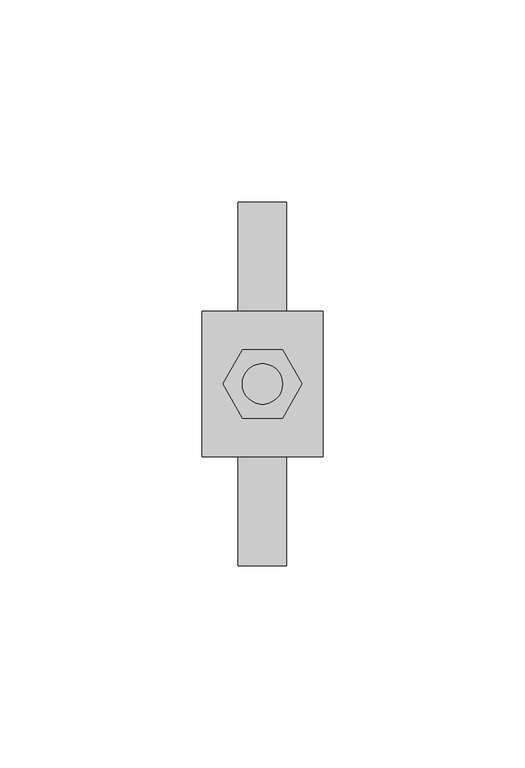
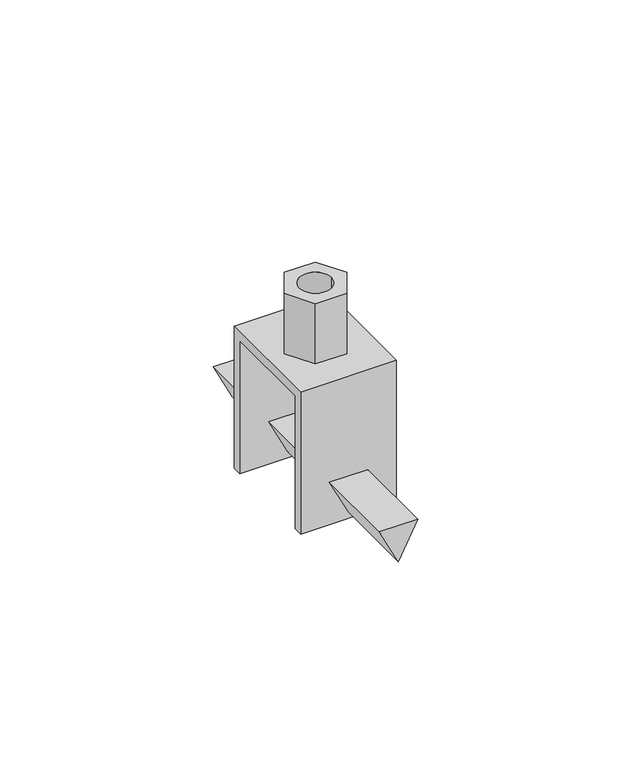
"""IFC4 building model written with IfcOpenShell, lengths in millimetres: unitary equipment geometry, NLRS_52_ME_FB_Geberit Pluvia ophangelement_PRO_101961 : 362.862.26.1 Geberit Pluvia ophangelement."""

import ifcopenshell
import ifcopenshell.guid

model = None  # the IFC model being written
_history = None  # IfcOwnerHistory: only IFC2X3 demands one
_inside = {}  # id of a spatial element -> (the spatial element, [elements in it])
_under = {}  # id of a project, library or spatial element -> (it, [spatial elements below it])
_declared = {}  # id of a project -> (the project, [libraries it declares])
_typed = {}  # id of a type object -> (the type object, [elements of that type])
_made_of = {}  # id of a material, layer set ... -> (it, [elements and type objects made of it])


def new_model(schema):
    """Start an empty IFC model of exactly this schema.

    Asked for "IFC4X3", IfcOpenShell would pick the latest addendum, in which some entities
    have other attributes; the version numbers below select the first issue.
    IFC2X3 requires an IfcOwnerHistory on every rooted entity: one is made here for all.
    """
    global model, _history
    if schema == "IFC4X3":
        model = ifcopenshell.file(schema_version=(4, 3, 0, 0))
    else:
        model = ifcopenshell.file(schema=schema)
    _inside.clear()
    _under.clear()
    _declared.clear()
    _typed.clear()
    _made_of.clear()
    _history = None
    if model.schema == "IFC2X3":
        org = make("IfcOrganization", Name="unknown")
        user = make(
            "IfcPersonAndOrganization",
            ThePerson=make("IfcPerson", FamilyName="unknown"),
            TheOrganization=org,
        )
        app = make(
            "IfcApplication",
            ApplicationDeveloper=org,
            Version="unknown",
            ApplicationFullName="unknown",
            ApplicationIdentifier="unknown",
        )
        _history = make(
            "IfcOwnerHistory",
            OwningUser=user,
            OwningApplication=app,
            ChangeAction="ADDED",
            CreationDate=0,
        )
    return model


def make(cls, **values):
    """One entity of the class cls with the attributes given. An attribute that is None is left unset."""
    return model.create_entity(
        cls, **{name: value for name, value in values.items() if value is not None}
    )


def rooted(cls, **values):
    """An entity with a GlobalId (a new one), such as an element, a storey or a relation."""
    return make(cls, GlobalId=ifcopenshell.guid.new(), OwnerHistory=_history, **values)


def si_unit(unit_type, name, prefix=None):
    """IfcSIUnit, for example si_unit("LENGTHUNIT", "METRE", prefix="MILLI")."""
    return make("IfcSIUnit", UnitType=unit_type, Prefix=prefix, Name=name)


def assignment(units):
    """IfcUnitAssignment: the units of a project."""
    return None if units is None else make("IfcUnitAssignment", Units=units)


def point(xyz):
    """IfcCartesianPoint."""
    return None if xyz is None else make("IfcCartesianPoint", Coordinates=xyz)


def direction(xyz):
    """IfcDirection."""
    return None if xyz is None else make("IfcDirection", DirectionRatios=xyz)


def frame(location, z_axis=None, x_axis=None):
    """IfcAxis2Placement3D, a coordinate frame: its origin and axes. An axis left out is left unset."""
    return make(
        "IfcAxis2Placement3D",
        Location=point(location),
        Axis=direction(z_axis),
        RefDirection=direction(x_axis),
    )


def origin():
    """The frame at (0, 0, 0) with its axes left unset."""
    return frame((0.0, 0.0, 0.0))


def place(relative_to, where):
    """IfcLocalPlacement: puts the frame where relative to a parent placement (None: the world)."""
    return make(
        "IfcLocalPlacement", PlacementRelTo=relative_to, RelativePlacement=where
    )


def context(
    kind, dimensions, precision=None, world=None, true_north=None, identifier=None
):
    """IfcGeometricRepresentationContext, for example the 3D "Model" context."""
    return make(
        "IfcGeometricRepresentationContext",
        ContextIdentifier=identifier,
        ContextType=kind,
        CoordinateSpaceDimension=dimensions,
        Precision=precision,
        WorldCoordinateSystem=world,
        TrueNorth=true_north,
    )


def project(units=None, contexts=None):
    """IfcProject with its units and contexts."""
    return rooted(
        "IfcProject",
        Name="project",
        RepresentationContexts=contexts,
        UnitsInContext=assignment(units),
    )


def spatial(cls, under=None, at=None, **own):
    """A site, building, storey or space (cls), placed at a placement, below another one or the project."""
    s = rooted(cls, ObjectPlacement=at, **own)
    if under is not None:
        _under.setdefault(under.id(), (under, []))[1].append(s)
    return s


def polyline(points):
    """IfcPolyline through the points."""
    return make("IfcPolyline", Points=[point(p) for p in points])


def circle_curve(where, radius):
    """IfcCircle in the frame where."""
    return make("IfcCircle", Position=where, Radius=radius)


def shape(context_of_items, identifier, shape_type, items):
    """IfcShapeRepresentation: the items that make up one representation, for example the "Body"."""
    return make(
        "IfcShapeRepresentation",
        ContextOfItems=context_of_items,
        RepresentationIdentifier=identifier,
        RepresentationType=shape_type,
        Items=items,
    )


def source(mapping_origin, context_of_items, identifier, shape_type, items):
    """IfcRepresentationMap: a shape defined once, which mapped items show again and again."""
    return make(
        "IfcRepresentationMap",
        MappingOrigin=mapping_origin,
        MappedRepresentation=shape(context_of_items, identifier, shape_type, items),
    )


def transform(
    local_origin,
    x_axis=None,
    y_axis=None,
    z_axis=None,
    scale=None,
    scale2=None,
    scale3=None,
    uniform=True,
):
    """IfcCartesianTransformationOperator3D, or its non-uniform kind. x_axis, y_axis, z_axis: its Axis1, 2, 3."""
    if uniform:
        return make(
            "IfcCartesianTransformationOperator3D",
            Axis1=direction(x_axis),
            Axis2=direction(y_axis),
            LocalOrigin=point(local_origin),
            Scale=scale,
            Axis3=direction(z_axis),
        )
    return make(
        "IfcCartesianTransformationOperator3DnonUniform",
        Axis1=direction(x_axis),
        Axis2=direction(y_axis),
        LocalOrigin=point(local_origin),
        Scale=scale,
        Axis3=direction(z_axis),
        Scale2=scale2,
        Scale3=scale3,
    )


def mapped(mapping_source, mapping_target):
    """IfcMappedItem: shows the shape of a source again, moved by a transform."""
    return make(
        "IfcMappedItem", MappingSource=mapping_source, MappingTarget=mapping_target
    )


def made_of(thing, what):
    """Note that an element or type object is made of a material, layer set ...; save() writes the relation."""
    if what is not None:
        _made_of.setdefault(what.id(), (what, []))[1].append(thing)
    return thing


def element(
    cls,
    number,
    at=None,
    inside=None,
    cuts=None,
    type_object=None,
    material=None,
    context=None,
    identifier="Body",
    shape_type=None,
    held_by="IfcProductDefinitionShape",
    body=None,
    shapes=None,
    **own,
):
    """One element of the class cls, such as IfcWall. Its Tag is "e" and its number.

    at: its placement. inside: the storey or other place that contains it. cuts: it is an
    opening in that element (IfcRelVoidsElement). A single representation is given by context,
    identifier, shape_type and body (its items); several are given by shapes. held_by: the class
    of the entity that holds the representations. save() writes the other relations.
    """
    e = rooted(cls, Tag="e%d" % number, ObjectPlacement=at, **own)
    if body is not None:
        shapes = [shape(context, identifier, shape_type, body)]
    if shapes is not None:
        e.Representation = make(held_by, Representations=shapes)
    if inside is not None:
        _inside.setdefault(inside.id(), (inside, []))[1].append(e)
    if cuts is not None:
        rooted(
            "IfcRelVoidsElement", RelatingBuildingElement=cuts, RelatedOpeningElement=e
        )
    if type_object is not None:
        _typed.setdefault(type_object.id(), (type_object, []))[1].append(e)
    return made_of(e, material)


def aggregate(whole, parts):
    """IfcRelAggregates: a whole, such as a stair, and the parts it consists of."""
    return rooted("IfcRelAggregates", RelatingObject=whole, RelatedObjects=parts)


def save(model, path):
    """Write the relations noted so far, then the file.

    IfcRelAggregates (storeys below a building ...), IfcRelContainedInSpatialStructure (elements
    in a storey), IfcRelDefinesByType, IfcRelAssociatesMaterial and IfcRelDeclares: one each for
    every whole, place, type object, material and project.
    """
    for whole, parts in _under.values():
        aggregate(whole, parts)
    for where, things in _inside.values():
        rooted(
            "IfcRelContainedInSpatialStructure",
            RelatedElements=things,
            RelatingStructure=where,
        )
    for kind, things in _typed.values():
        rooted("IfcRelDefinesByType", RelatedObjects=things, RelatingType=kind)
    for what, things in _made_of.values():
        rooted("IfcRelAssociatesMaterial", RelatedObjects=things, RelatingMaterial=what)
    for by, libraries in _declared.values():
        rooted("IfcRelDeclares", RelatingContext=by, RelatedDefinitions=libraries)
    model.write(path)


def plane_surface(at):
    """IfcPlane: the flat surface through the origin of the frame at, square to its z axis."""
    return make("IfcPlane", Position=at)


def revolved_surface(curve, axis_point, axis_direction):
    """IfcSurfaceOfRevolution: the curve turned about the line through axis_point along axis_direction."""
    return make(
        "IfcSurfaceOfRevolution",
        SweptCurve=make("IfcArbitraryOpenProfileDef", ProfileType="CURVE", Curve=curve),
        AxisPosition=make("IfcAxis1Placement", Location=point(axis_point), Axis=direction(axis_direction)),
    )


def advanced_brep(points, edges, surfaces, faces):
    """IfcAdvancedBrep: a solid bounded by faces that lie on surfaces and meet in shared edges.

    An edge is (start, end): straight between two places in points (the first is 0);
    or (start, end, curve); or (start, end, curve, False) where it runs against its curve.
    A face is (place in surfaces, loops), or (place, loops, False) where it looks against
    its surface's normal. A loop lists edges by number (the first is 1), with a minus sign
    where the edge is run from its end to its start. The first loop is the outer one.
    """
    corners = [point(p) for p in points]
    vertices = [make("IfcVertexPoint", VertexGeometry=c) for c in corners]
    made = []
    for start, end, *more in edges:
        made.append(
            make(
                "IfcEdgeCurve",
                EdgeStart=vertices[start],
                EdgeEnd=vertices[end],
                EdgeGeometry=more[0] if more else make("IfcPolyline", Points=[corners[start], corners[end]]),
                SameSense=more[1] if len(more) > 1 else True,
            )
        )
    hull = []
    for where, loops, *sense in faces:
        bounds = []
        for j, loop in enumerate(loops):
            ring = [make("IfcOrientedEdge", EdgeElement=made[abs(k) - 1], Orientation=k > 0) for k in loop]
            bounds.append(
                make(
                    "IfcFaceOuterBound" if j == 0 else "IfcFaceBound",
                    Bound=make("IfcEdgeLoop", EdgeList=ring),
                    Orientation=True,
                )
            )
        hull.append(make("IfcAdvancedFace", Bounds=bounds, FaceSurface=surfaces[where], SameSense=sense[0] if sense else True))
    return make("IfcAdvancedBrep", Outer=make("IfcClosedShell", CfsFaces=hull))


def unitary_equipment_280b285e(model_context):
    return source(origin(), model_context, "Body", "AdvancedBrep", [
        advanced_brep(
        [(-15.0, -18.0, 3.0), (-15.0, 18.0, 3.0), (-15.0, 18.0, -44.0), (-15.0, 15.0, -44.0), (-15.0, 15.0, 0.0), (-15.0, -15.0, 0.0), (-15.0, -15.0, -44.0), (-15.0, -18.0, -44.0), (15.0, -18.0, 3.0), (15.0, -18.0, -44.0), (15.0, -15.0, -44.0), (15.0, -15.0, 0.0), (15.0, 15.0, 0.0), (15.0, 15.0, -44.0), (15.0, 18.0, -44.0), (15.0, 18.0, 3.0), (-6.0, -18.0, -30.0), (6.0, -18.0, -30.0), (0.0, -18.0, -42.0), (6.0, 18.0, -30.0), (-6.0, 18.0, -30.0), (0.0, 18.0, -42.0), (9.8149546, 0.0, 3.0), (4.9074773, -8.5, 3.0), (-4.9074773, -8.5, 3.0), (-9.8149546, 0.0, 3.0), (-4.9074773, 8.5, 3.0), (4.9074773, 8.5, 3.0), (5.0, 0.0, 3.0), (-5.0, 0.0, 3.0), (-6.0, 15.0, -30.0), (6.0, 15.0, -30.0), (0.0, 15.0, -42.0), (6.0, -15.0, -30.0), (-6.0, -15.0, -30.0), (0.0, -15.0, -42.0), (9.8149546, 0.0, 23.0), (4.9074773, 8.5, 23.0), (-4.9074773, 8.5, 23.0), (-9.8149546, 0.0, 23.0), (-4.9074773, -8.5, 23.0), (4.9074773, -8.5, 23.0), (5.0, 0.0, 23.0), (-5.0, 0.0, 23.0), (-6.0, 45.0, -30.0), (6.0, 45.0, -30.0), (0.0, 45.0, -42.0), (-6.0, -45.0, -30.0), (0.0, -45.0, -42.0), (6.0, -45.0, -30.0)],
        [
            (0, 1),
            (1, 2),
            (2, 3),
            (3, 4),
            (4, 5),
            (5, 6),
            (6, 7),
            (7, 0),
            (8, 9),
            (9, 10),
            (10, 11),
            (11, 12),
            (12, 13),
            (13, 14),
            (14, 15),
            (15, 8),
            (7, 9),
            (8, 0),
            (16, 17),
            (17, 18),
            (18, 16),
            (2, 14),
            (13, 3),
            (1, 15),
            (19, 20),
            (20, 21),
            (21, 19),
            (22, 23),
            (23, 24),
            (24, 25),
            (25, 26),
            (26, 27),
            (27, 22),
            (28, 29, circle_curve(frame((0.0, 0.0, 3.0), z_axis=(0.0, 0.0, 1.0), x_axis=(-1.0, 0.0, 0.0)), 5.0)),
            (29, 28, circle_curve(frame((0.0, 0.0, 3.0), z_axis=(0.0, 0.0, 1.0), x_axis=(-1.0, 0.0, 0.0)), 5.0)),
            (12, 4),
            (30, 31),
            (31, 32),
            (32, 30),
            (5, 11),
            (10, 6),
            (33, 34),
            (34, 35),
            (35, 33),
            (36, 37),
            (37, 38),
            (38, 39),
            (39, 40),
            (40, 41),
            (41, 36),
            (42, 43, circle_curve(frame((0.0, 0.0, 23.0), z_axis=(0.0, 0.0, -1.0), x_axis=(-1.0, 0.0, 0.0)), 5.0)),
            (43, 42, circle_curve(frame((0.0, 0.0, 23.0), z_axis=(0.0, 0.0, -1.0), x_axis=(-1.0, 0.0, 0.0)), 5.0)),
            (41, 23),
            (22, 36),
            (40, 24),
            (39, 25),
            (38, 26),
            (37, 27),
            (43, 29),
            (28, 42),
            (44, 45),
            (45, 46),
            (46, 44),
            (47, 48),
            (48, 49),
            (49, 47),
            (44, 20),
            (19, 45),
            (49, 17),
            (16, 47),
            (30, 34),
            (33, 31),
            (21, 46),
            (48, 18),
            (35, 32),
        ],
        [
            plane_surface(frame((-15.0, 0.0, 0.0), z_axis=(-1.0, 0.0, 0.0), x_axis=(0.0, 0.0, 1.0))),
            plane_surface(frame((15.0, 0.0, 0.0), z_axis=(1.0, 0.0, 0.0), x_axis=(0.0, 0.0, 1.0))),
            plane_surface(frame((-15.0, -18.0, -44.0), z_axis=(0.0, -1.0, 0.0), x_axis=(1.0, 0.0, 0.0))),
            plane_surface(frame((-15.0, 18.0, -44.0), z_axis=(0.0, 0.0, -1.0), x_axis=(1.0, 0.0, 0.0))),
            plane_surface(frame((-15.0, 18.0, 3.0), z_axis=(0.0, 1.0, 0.0), x_axis=(1.0, 0.0, 0.0))),
            plane_surface(frame((-15.0, -18.0, 3.0), z_axis=(0.0, 0.0, 1.0), x_axis=(1.0, 0.0, 0.0))),
            plane_surface(frame((-15.0, 15.0, -44.0), z_axis=(0.0, -1.0, 0.0), x_axis=(1.0, 0.0, 0.0))),
            plane_surface(frame((-15.0, -15.0, 0.0), z_axis=(0.0, 1.0, 0.0), x_axis=(1.0, 0.0, 0.0))),
            plane_surface(frame((-15.0, 15.0, 0.0), z_axis=(0.0, 0.0, -1.0), x_axis=(1.0, 0.0, 0.0))),
            plane_surface(frame((-15.0, -15.0, -44.0), z_axis=(0.0, 0.0, -1.0), x_axis=(1.0, 0.0, 0.0))),
            plane_surface(frame((0.0, 0.0, 23.0), z_axis=(0.0, 0.0, 1.0), x_axis=(0.0, -1.0, 0.0))),
            plane_surface(frame((9.8149546, 0.0, 3.0), z_axis=(0.8660254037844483, -0.4999999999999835, 0.0), x_axis=(0.0, 0.0, 1.0))),
            plane_surface(frame((4.9074773, -8.5, 3.0), z_axis=(0.0, -1.0, 0.0), x_axis=(0.0, 0.0, 1.0))),
            plane_surface(frame((-4.9074773, -8.5, 3.0), z_axis=(-0.8660254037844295, -0.500000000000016, 0.0), x_axis=(0.0, 0.0, 1.0))),
            plane_surface(frame((-9.8149546, 0.0, 3.0), z_axis=(-0.8660254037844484, 0.4999999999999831, 0.0), x_axis=(0.0, 0.0, 1.0))),
            plane_surface(frame((-4.9074773, 8.5, 3.0), z_axis=(0.0, 1.0, 0.0), x_axis=(0.0, 0.0, 1.0))),
            plane_surface(frame((4.9074773, 8.5, 3.0), z_axis=(0.8660254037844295, 0.500000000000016, 0.0), x_axis=(0.0, 0.0, 1.0))),
            revolved_surface(polyline([(-5.0, 0.0, 23.0), (-5.0, 0.0, 3.0)]), (0.0, 0.0, 3.0), (0.0, 0.0, 1.0)),
            plane_surface(frame((0.0, 45.0, 0.0), z_axis=(0.0, 1.0, 0.0), x_axis=(0.0, 0.0, 1.0))),
            plane_surface(frame((0.0, -45.0, 0.0), z_axis=(0.0, -1.0, 0.0), x_axis=(0.0, 0.0, 1.0))),
            plane_surface(frame((-6.0, 45.0, -30.0), z_axis=(0.0, 0.0, 1.0), x_axis=(0.0, -1.0, 0.0))),
            plane_surface(frame((6.0, 45.0, -30.0), z_axis=(0.8944271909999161, 0.0, -0.4472135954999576), x_axis=(0.0, -1.0, 0.0))),
            plane_surface(frame((0.0, 45.0, -42.0), z_axis=(-0.894427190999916, 0.0, -0.4472135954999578), x_axis=(0.0, -1.0, 0.0))),
        ],
        [
            (0, [[1, 2, 3, 4, 5, 6, 7, 8]]),
            (1, [[9, 10, 11, 12, 13, 14, 15, 16]]),
            (2, [[-8, 17, -9, 18], [19, 20, 21]]),
            (3, [[-3, 22, -14, 23]]),
            (4, [[-2, 24, -15, -22], [25, 26, 27]]),
            (5, [[-1, -18, -16, -24], [28, 29, 30, 31, 32, 33]]),
            (5, [[34, 35]]),
            (6, [[-4, -23, -13, 36], [37, 38, 39]]),
            (7, [[-6, 40, -11, 41], [42, 43, 44]]),
            (8, [[-5, -36, -12, -40]]),
            (9, [[-7, -41, -10, -17]]),
            (10, [[45, 46, 47, 48, 49, 50], [51, 52]]),
            (11, [[-50, 53, -28, 54]]),
            (12, [[-49, 55, -29, -53]]),
            (13, [[-48, 56, -30, -55]]),
            (14, [[-47, 57, -31, -56]]),
            (15, [[-46, 58, -32, -57]]),
            (16, [[-45, -54, -33, -58]]),
            (17, [[-52, 59, -34, 60]]),
            (17, [[-51, -60, -35, -59]]),
            (18, [[61, 62, 63]]),
            (19, [[64, 65, 66]]),
            (20, [[-61, 67, -25, 68]]),
            (20, [[-66, 69, -19, 70]]),
            (20, [[71, -42, 72, -37]]),
            (21, [[-62, -68, -27, 73]]),
            (21, [[-65, 74, -20, -69]]),
            (21, [[-72, -44, 75, -38]]),
            (22, [[-63, -73, -26, -67]]),
            (22, [[-64, -70, -21, -74]]),
            (22, [[-71, -39, -75, -43]]),
        ],
    ),
    ])


if __name__ == "__main__":
    model = new_model("IFC4")
    model_context = context("Model", 3, world=origin())
    ifc_project = project(units=[si_unit("LENGTHUNIT", "METRE", prefix="MILLI")], contexts=[model_context])
    site = spatial("IfcSite", under=ifc_project)
    building = spatial("IfcBuilding", under=site)
    placement = place(None, origin())
    unitary_equipment_shape = unitary_equipment_280b285e(model_context)
    element("IfcUnitaryEquipment", 1, ObjectType="NLRS_52_ME_FB_Geberit Pluvia ophangelement_PRO_101961 : 362.862.26.1 Geberit Pluvia ophangelement", at=placement, inside=building, context=model_context, shape_type="MappedRepresentation", body=[
        mapped(unitary_equipment_shape, transform((0.0, 0.0, 0.0), x_axis=(1.0, 0.0, 0.0), y_axis=(0.0, 1.0, 0.0), z_axis=(0.0, 0.0, 1.0))),
    ])
    save(model, "model.ifc")
